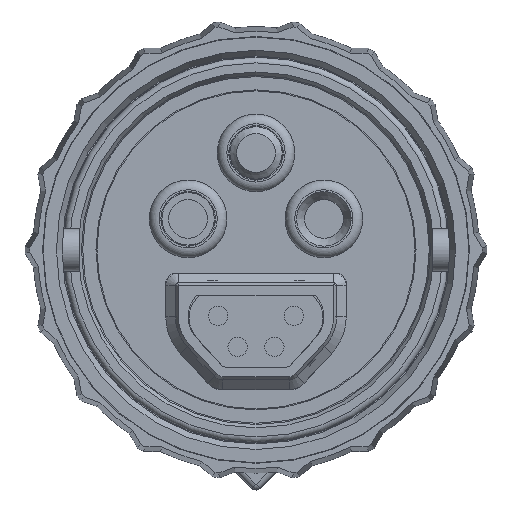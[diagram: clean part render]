
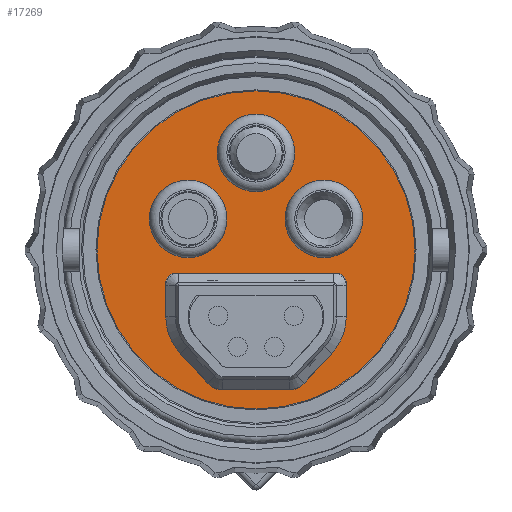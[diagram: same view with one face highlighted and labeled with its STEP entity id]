
A CAD part, front view. The second image highlights one B-rep face of the part: STEP entity #17269.
In plain terms, the highlighted planar face has unit normal (0, -1, 0).
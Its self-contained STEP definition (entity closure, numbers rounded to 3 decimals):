
#131=FACE_BOUND('',#2114,.T.);
#132=FACE_BOUND('',#2115,.T.);
#133=FACE_BOUND('',#2116,.T.);
#134=FACE_BOUND('',#2117,.T.);
#1194=FACE_OUTER_BOUND('',#2113,.T.);
#2113=EDGE_LOOP('',(#14398,#14399));
#2114=EDGE_LOOP('',(#14400));
#2115=EDGE_LOOP('',(#14401,#14402,#14403,#14404,#14405,#14406,#14407,#14408,
#14409,#14410,#14411,#14412));
#2116=EDGE_LOOP('',(#14413));
#2117=EDGE_LOOP('',(#14414));
#3895=LINE('',#29908,#5738);
#3898=LINE('',#29916,#5741);
#3901=LINE('',#29924,#5744);
#3908=LINE('',#29956,#5751);
#3911=LINE('',#29964,#5754);
#3912=LINE('',#29970,#5755);
#5738=VECTOR('',#22264,10.);
#5741=VECTOR('',#22273,10.);
#5744=VECTOR('',#22282,10.);
#5751=VECTOR('',#22319,10.);
#5754=VECTOR('',#22328,10.);
#5755=VECTOR('',#22335,10.);
#6196=CIRCLE('',#18402,2.75);
#6197=CIRCLE('',#18405,0.8);
#6198=CIRCLE('',#18408,0.8);
#6199=CIRCLE('',#18411,8.2);
#6200=CIRCLE('',#18412,8.2);
#6207=CIRCLE('',#18423,0.5);
#6208=CIRCLE('',#18426,0.5);
#6209=CIRCLE('',#18429,2.);
#6210=CIRCLE('',#18430,2.75);
#6211=CIRCLE('',#18431,2.);
#6212=CIRCLE('',#18432,2.);
#7675=VERTEX_POINT('',#29900);
#7676=VERTEX_POINT('',#29902);
#7677=VERTEX_POINT('',#29906);
#7678=VERTEX_POINT('',#29910);
#7679=VERTEX_POINT('',#29914);
#7680=VERTEX_POINT('',#29918);
#7681=VERTEX_POINT('',#29922);
#7682=VERTEX_POINT('',#29926);
#7683=VERTEX_POINT('',#29928);
#7690=VERTEX_POINT('',#29950);
#7691=VERTEX_POINT('',#29952);
#7692=VERTEX_POINT('',#29958);
#7693=VERTEX_POINT('',#29960);
#7694=VERTEX_POINT('',#29966);
#7695=VERTEX_POINT('',#29968);
#7696=VERTEX_POINT('',#29971);
#7697=VERTEX_POINT('',#29973);
#9925=EDGE_CURVE('',#7676,#7675,#6196,.T.);
#9928=EDGE_CURVE('',#7675,#7677,#3895,.T.);
#9930=EDGE_CURVE('',#7677,#7678,#6197,.T.);
#9932=EDGE_CURVE('',#7678,#7679,#3898,.T.);
#9934=EDGE_CURVE('',#7679,#7680,#6198,.T.);
#9936=EDGE_CURVE('',#7680,#7681,#3901,.T.);
#9938=EDGE_CURVE('',#7682,#7683,#6199,.T.);
#9939=EDGE_CURVE('',#7683,#7682,#6200,.T.);
#9950=EDGE_CURVE('',#7690,#7691,#6207,.T.);
#9952=EDGE_CURVE('',#7690,#7676,#3908,.T.);
#9954=EDGE_CURVE('',#7692,#7693,#6208,.T.);
#9956=EDGE_CURVE('',#7692,#7691,#3911,.T.);
#9957=EDGE_CURVE('',#7694,#7694,#6209,.T.);
#9958=EDGE_CURVE('',#7681,#7695,#6210,.T.);
#9959=EDGE_CURVE('',#7695,#7693,#3912,.T.);
#9960=EDGE_CURVE('',#7696,#7696,#6211,.T.);
#9961=EDGE_CURVE('',#7697,#7697,#6212,.T.);
#14398=ORIENTED_EDGE('',*,*,#9939,.F.);
#14399=ORIENTED_EDGE('',*,*,#9938,.F.);
#14400=ORIENTED_EDGE('',*,*,#9957,.T.);
#14401=ORIENTED_EDGE('',*,*,#9952,.T.);
#14402=ORIENTED_EDGE('',*,*,#9925,.T.);
#14403=ORIENTED_EDGE('',*,*,#9928,.T.);
#14404=ORIENTED_EDGE('',*,*,#9930,.T.);
#14405=ORIENTED_EDGE('',*,*,#9932,.T.);
#14406=ORIENTED_EDGE('',*,*,#9934,.T.);
#14407=ORIENTED_EDGE('',*,*,#9936,.T.);
#14408=ORIENTED_EDGE('',*,*,#9958,.T.);
#14409=ORIENTED_EDGE('',*,*,#9959,.T.);
#14410=ORIENTED_EDGE('',*,*,#9954,.F.);
#14411=ORIENTED_EDGE('',*,*,#9956,.T.);
#14412=ORIENTED_EDGE('',*,*,#9950,.F.);
#14413=ORIENTED_EDGE('',*,*,#9960,.T.);
#14414=ORIENTED_EDGE('',*,*,#9961,.T.);
#15565=PLANE('',#18428);
#17269=ADVANCED_FACE('',(#1194,#131,#132,#133,#134),#15565,.T.);
#18402=AXIS2_PLACEMENT_3D('',#29903,#22258,#22259);
#18405=AXIS2_PLACEMENT_3D('',#29912,#22268,#22269);
#18408=AXIS2_PLACEMENT_3D('',#29920,#22277,#22278);
#18411=AXIS2_PLACEMENT_3D('',#29929,#22286,#22287);
#18412=AXIS2_PLACEMENT_3D('',#29930,#22288,#22289);
#18423=AXIS2_PLACEMENT_3D('',#29953,#22314,#22315);
#18426=AXIS2_PLACEMENT_3D('',#29961,#22323,#22324);
#18428=AXIS2_PLACEMENT_3D('',#29965,#22329,#22330);
#18429=AXIS2_PLACEMENT_3D('',#29967,#22331,#22332);
#18430=AXIS2_PLACEMENT_3D('',#29969,#22333,#22334);
#18431=AXIS2_PLACEMENT_3D('',#29972,#22336,#22337);
#18432=AXIS2_PLACEMENT_3D('',#29974,#22338,#22339);
#22258=DIRECTION('center_axis',(0.,1.,0.));
#22259=DIRECTION('ref_axis',(1.,0.,0.));
#22264=DIRECTION('',(-0.68,0.,-0.733));
#22268=DIRECTION('center_axis',(0.,1.,0.));
#22269=DIRECTION('ref_axis',(0.733,0.,-0.68));
#22273=DIRECTION('',(-1.,0.,0.));
#22277=DIRECTION('center_axis',(0.,1.,0.));
#22278=DIRECTION('ref_axis',(0.,0.,
-1.));
#22282=DIRECTION('',(-0.68,0.,0.733));
#22286=DIRECTION('center_axis',(0.,1.,0.));
#22287=DIRECTION('ref_axis',(1.,0.,0.));
#22288=DIRECTION('center_axis',(0.,1.,0.));
#22289=DIRECTION('ref_axis',(1.,0.,0.));
#22314=DIRECTION('center_axis',(0.,-1.,0.));
#22315=DIRECTION('ref_axis',(0.707,0.,0.707));
#22319=DIRECTION('',(0.,0.,-1.));
#22323=DIRECTION('center_axis',(0.,-1.,0.));
#22324=DIRECTION('ref_axis',(-0.707,0.,0.707));
#22328=DIRECTION('',(1.,0.,0.));
#22329=DIRECTION('center_axis',(0.,-1.,0.));
#22330=DIRECTION('ref_axis',(-1.,0.,0.));
#22331=DIRECTION('center_axis',(0.,1.,0.));
#22332=DIRECTION('ref_axis',(1.,0.,0.));
#22333=DIRECTION('center_axis',(0.,1.,0.));
#22334=DIRECTION('ref_axis',(-0.733,0.,-0.68));
#22335=DIRECTION('',(0.,0.,1.));
#22336=DIRECTION('center_axis',(0.,1.,0.));
#22337=DIRECTION('ref_axis',(1.,0.,0.));
#22338=DIRECTION('center_axis',(0.,1.,0.));
#22339=DIRECTION('ref_axis',(1.,0.,0.));
#29900=CARTESIAN_POINT('',(3.916,-10.,-5.321));
#29902=CARTESIAN_POINT('',(4.65,-10.,-3.45));
#29903=CARTESIAN_POINT('Origin',(1.9,-10.,-3.45));
#29906=CARTESIAN_POINT('',(2.409,-10.,-6.944));
#29908=CARTESIAN_POINT('',(1.538,-10.,-7.882));
#29910=CARTESIAN_POINT('',(1.823,-10.,-7.2));
#29912=CARTESIAN_POINT('Origin',(1.823,-10.,-6.4));
#29914=CARTESIAN_POINT('',(-1.823,-10.,-7.2));
#29916=CARTESIAN_POINT('',(-0.911,-10.,-7.2));
#29918=CARTESIAN_POINT('',(-2.409,-10.,-6.944));
#29920=CARTESIAN_POINT('Origin',(-1.823,-10.,-6.4));
#29922=CARTESIAN_POINT('',(-3.916,-10.,-5.321));
#29924=CARTESIAN_POINT('',(-2.292,-10.,-7.07));
#29926=CARTESIAN_POINT('',(0.,-10.,8.2));
#29928=CARTESIAN_POINT('',(0.,-10.,-8.2));
#29929=CARTESIAN_POINT('Origin',(0.,-10.,
0.));
#29930=CARTESIAN_POINT('Origin',(0.,-10.,
0.));
#29950=CARTESIAN_POINT('',(4.65,-10.,-1.7));
#29952=CARTESIAN_POINT('',(4.15,-10.,-1.2));
#29953=CARTESIAN_POINT('Origin',(4.15,-10.,-1.7));
#29956=CARTESIAN_POINT('',(4.65,-10.,-5.825));
#29958=CARTESIAN_POINT('',(-4.15,-10.,-1.2));
#29960=CARTESIAN_POINT('',(-4.65,-10.,-1.7));
#29961=CARTESIAN_POINT('Origin',(-4.15,-10.,-1.7));
#29964=CARTESIAN_POINT('',(2.325,-10.,-1.2));
#29965=CARTESIAN_POINT('Origin',(0.,-10.,
-8.2));
#29966=CARTESIAN_POINT('',(1.5,-10.,1.6));
#29967=CARTESIAN_POINT('Origin',(3.5,-10.,1.6));
#29968=CARTESIAN_POINT('',(-4.65,-10.,-3.45));
#29969=CARTESIAN_POINT('Origin',(-1.9,-10.,-3.45));
#29970=CARTESIAN_POINT('',(-4.65,-10.,-4.7));
#29971=CARTESIAN_POINT('',(-2.,-10.,5.));
#29972=CARTESIAN_POINT('Origin',(0.,-10.,
5.));
#29973=CARTESIAN_POINT('',(-5.5,-10.,1.6));
#29974=CARTESIAN_POINT('Origin',(-3.5,-10.,1.6));
